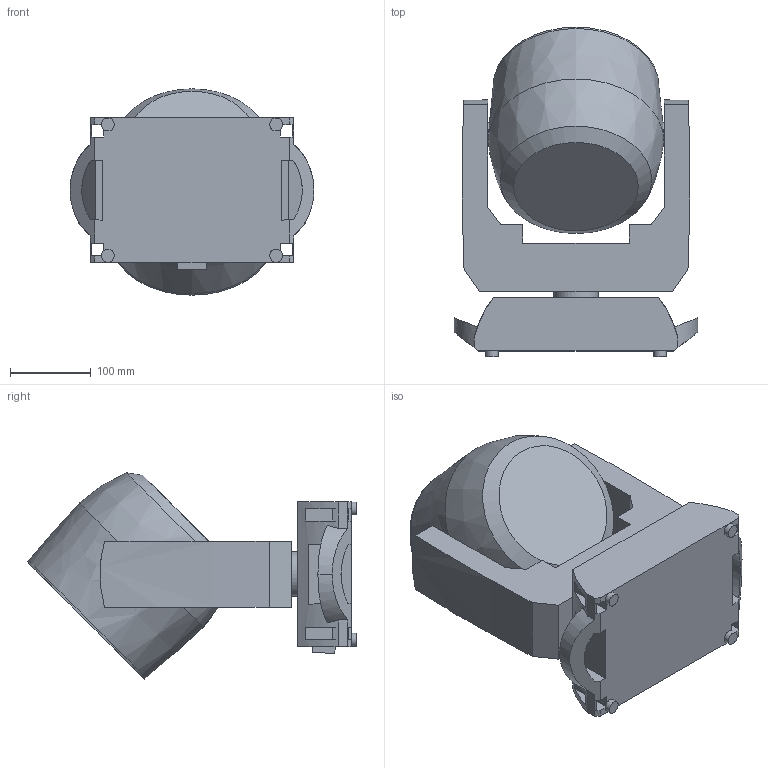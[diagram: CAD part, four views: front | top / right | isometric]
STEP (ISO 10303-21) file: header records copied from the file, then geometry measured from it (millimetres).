
FILE_DESCRIPTION(/* description */ (''),/* implementation_level */ '2;1');
FILE_NAME(/* name */ 'C:\Users\dgooch\Documents\!!CADENG\PRO\Rogue Outcast 2 Wash\Rogue Outcast 2X Wash_3D_CAD\Rogue Outcast 2X Wash_3D_45.stp',/* time_stamp */ '2022-06-14T16:48:38-04:00',/* author */ ('dgooch'),/* organization */ (''),/* preprocessor_version */ 'ST-DEVELOPER v19',/* originating_system */ 'Autodesk Inventor 2023',/* authorisation */ '');
FILE_SCHEMA (('AUTOMOTIVE_DESIGN { 1 0 10303 214 3 1 1 }'));
Length unit declared in the file: millimetre
Products named in the file (4): Rogue Outcast 2 Wash; Head; Arm; Base
Assembly tree (3 placements, depth 2):
  Rogue Outcast 2 Wash
    Head
    Arm
    Base
Bounding box: 302.56 x 409.46 x 256.33 mm (x, y, z)
Volume: 11259887.2 mm3; surface area: 511420 mm2
Topology: 3 solids, 3 shells, 99 faces, 271 edges, 177 vertices
Faces by surface type: plane 70, cylinder 26, bspline 2, cone 1
Full cylindrical faces by diameter (mm): 16 x4, 23.4 x4, 55.7 x2, 185 x1, 206 x1
Entity records: 3473 total; most frequent: CARTESIAN_POINT 739, ORIENTED_EDGE 542, DIRECTION 537, EDGE_CURVE 271, LINE 187, VECTOR 187, VERTEX_POINT 177, AXIS2_PLACEMENT_3D 175
